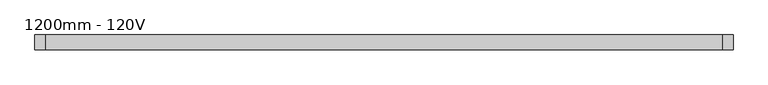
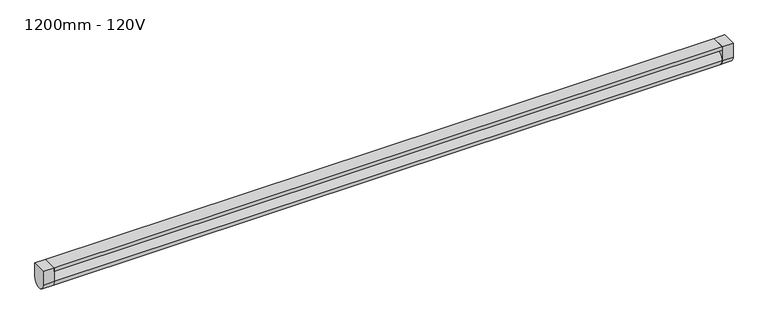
"""IFC4 building model written with IfcOpenShell, lengths in millimetres: light fixture geometry, M_Foco empotrado - Tira : 1200mm - 120V."""

from ifc_helpers import new_model, si_unit, point, frame, frame_2d, origin, place, context, project, spatial, polyline, circle_curve, trimmed, segment, composite_curve, outline, extrude, source, transform, mapped, element, save


def light_fixture_1200mm_120v_fc9ddcf6(model_context):
    return source(origin(), model_context, "Body", "SweptSolid", [
        extrude(outline(polyline([(580.95, -205.9435765), (580.95, -231.3435765), (-580.95, -231.3435765), (-580.95, -205.9435765), (580.95, -205.9435765)])), frame((0.0, 0.0, 2493.65), z_axis=(0.0, 0.0, 1.0), x_axis=(1.0, 0.0, 0.0)), (0.0, 0.0, 1.0), 6.35),
        extrude(outline(composite_curve([segment(trimmed(circle_curve(frame_2d((-218.6435765, 2474.6)), 12.7), [point((-205.9435765, 2474.6))], [point((-231.3435765, 2474.6))], False, "CARTESIAN"), True, "CONTINUOUS"), segment(polyline([(-231.3435765, 2474.6), (-231.3435765, 2500.0), (-205.9435765, 2500.0), (-205.9435765, 2474.6)]), True, "CONTINUOUS")], self_intersect=False)), frame((-600.0, 0.0, 0.0), z_axis=(1.0, 0.0, 0.0), x_axis=(0.0, 1.0, 0.0)), (0.0, 0.0, 1.0), 19.05),
        extrude(outline(composite_curve([segment(trimmed(circle_curve(frame_2d((-218.6435765, 2474.6)), 12.7), [point((-205.9435765, 2474.6))], [point((-231.3435765, 2474.6))], False, "CARTESIAN"), True, "CONTINUOUS"), segment(polyline([(-231.3435765, 2474.6), (-231.3435765, 2500.0), (-205.9435765, 2500.0), (-205.9435765, 2474.6)]), True, "CONTINUOUS")], self_intersect=False)), frame((580.95, 0.0, 0.0), z_axis=(1.0, 0.0, 0.0), x_axis=(0.0, 1.0, 0.0)), (0.0, 0.0, 1.0), 19.05),
        extrude(outline(composite_curve([segment(trimmed(circle_curve(frame_2d((-218.6435765, 2474.6)), 12.7), [point((-231.3435765, 2474.6))], [point((-205.9435765, 2474.6))], False, "CARTESIAN"), True, "CONTINUOUS"), segment(trimmed(circle_curve(frame_2d((-218.6435765, 2474.6)), 12.7), [point((-205.9435765, 2474.6))], [point((-231.3435765, 2474.6))], False, "CARTESIAN"), True, "CONTINUOUS")], self_intersect=False)), frame((-580.95, 0.0, 0.0), z_axis=(1.0, 0.0, 0.0), x_axis=(0.0, 1.0, 0.0)), (0.0, 0.0, 1.0), 1161.9),
    ])


if __name__ == "__main__":
    model = new_model("IFC4")
    model_context = context("Model", 3, world=origin())
    ifc_project = project(units=[si_unit("LENGTHUNIT", "METRE", prefix="MILLI")], contexts=[model_context])
    site = spatial("IfcSite", under=ifc_project)
    building = spatial("IfcBuilding", under=site)
    placement = place(None, origin())
    light_fixture_1200mm_120v_shape = light_fixture_1200mm_120v_fc9ddcf6(model_context)
    element("IfcLightFixture", 1, ObjectType="M_Foco empotrado - Tira : 1200mm - 120V", at=placement, inside=building, context=model_context, shape_type="MappedRepresentation", body=[
        mapped(light_fixture_1200mm_120v_shape, transform((0.0, 0.0, 0.0), x_axis=(1.0, 0.0, 0.0), y_axis=(0.0, 1.0, 0.0), z_axis=(0.0, 0.0, 1.0))),
    ])
    save(model, "model.ifc")
